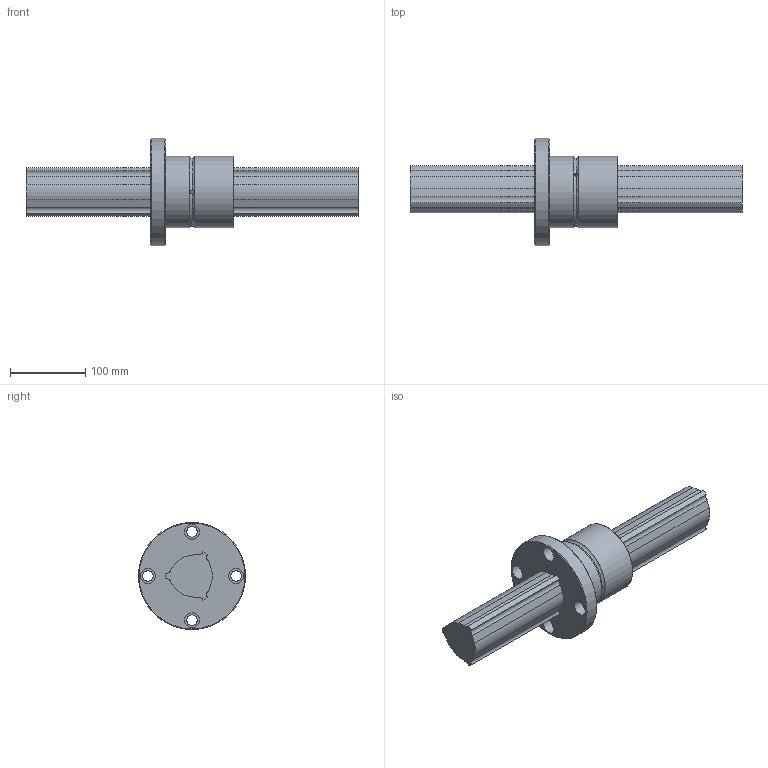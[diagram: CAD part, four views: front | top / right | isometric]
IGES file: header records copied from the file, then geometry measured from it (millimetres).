
Start section: Data from Parasolid IGES Translator 26.0.171, Copyright(c) 2006 Siemens PLM Software. All Rights Reserved.
Global section: file name: LBF70+440L(4401650).igs; native system: By Siemens PLM Incorporated; preprocessor: XPlus GENERIC/IGES 26.0.171; author: Noname; organization: Noname; date: 20240528.034058; units: millimetre
Bounding box: 440 x 142 x 142 mm (x, y, z)
Surface area: 183212.9 mm2 (no closed solid volume)
Topology: 0 solids, 0 shells, 71 faces, 356 edges, 334 vertices
Faces by surface type: revolution 47, extrusion 24
